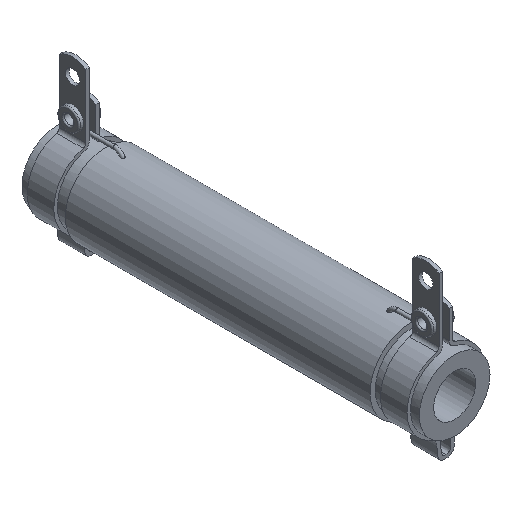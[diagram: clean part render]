
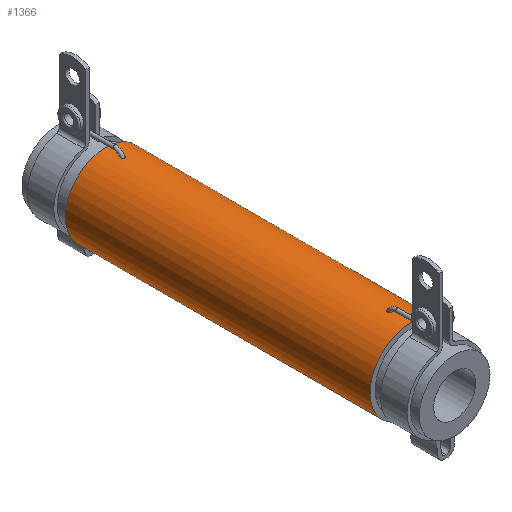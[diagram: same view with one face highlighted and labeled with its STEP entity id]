
A CAD part, isometric view. The second image highlights one B-rep face of the part: STEP entity #1366.
In plain terms, the highlighted cylindrical face has radius 9.175 mm (diameter 18.35 mm), a full revolution.
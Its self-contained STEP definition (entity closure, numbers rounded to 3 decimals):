
#147=B_SPLINE_CURVE_WITH_KNOTS($,3,(#2087,#2088,#2089,#2090,#2091,#2092,
#2093,#2094,#2095,#2096,#2097,#2098,#2099,#2100,#2101,#2102,#2103,#2104,
#2105,#2106,#2107,#2108,#2109,#2110,#2111,#2112,#2113,#2114,#2115,#2116,
#2117,#2118,#2119,#2120,#2121,#2122),.UNSPECIFIED.,.T.,.F.,(4,2,2,2,2,2,
2,2,2,2,2,2,2,2,2,2,2,4),(0.,0.015,0.03,0.046,
0.064,0.084,0.104,0.121,
0.134,0.146,0.159,0.176,
0.196,0.217,0.235,0.251,
0.261,0.271),.UNSPECIFIED.);
#148=B_SPLINE_CURVE_WITH_KNOTS($,3,(#2124,#2125,#2126,#2127,#2128,#2129,
#2130,#2131,#2132,#2133,#2134,#2135,#2136,#2137,#2138,#2139,#2140,#2141,
#2142,#2143,#2144,#2145,#2146,#2147,#2148,#2149,#2150,#2151,#2152,#2153,
#2154,#2155,#2156,#2157,#2158,#2159),.UNSPECIFIED.,.T.,.F.,(4,2,2,2,2,2,
2,2,2,2,2,2,2,2,2,2,2,4),(0.,0.015,0.03,0.046,
0.064,0.084,0.104,0.121,
0.134,0.146,0.159,0.176,
0.196,0.217,0.235,0.251,
0.261,0.271),.UNSPECIFIED.);
#177=FACE_BOUND($,#372,.T.);
#178=FACE_BOUND($,#373,.T.);
#179=FACE_BOUND($,#374,.T.);
#180=FACE_BOUND($,#375,.T.);
#251=CYLINDRICAL_SURFACE($,#1468,9.175);
#372=EDGE_LOOP($,(#918));
#373=EDGE_LOOP($,(#919));
#374=EDGE_LOOP($,(#920));
#375=EDGE_LOOP($,(#921));
#511=CIRCLE($,#1469,9.175);
#512=CIRCLE($,#1470,9.175);
#604=VERTEX_POINT($,#2086);
#605=VERTEX_POINT($,#2123);
#606=VERTEX_POINT($,#2160);
#607=VERTEX_POINT($,#2162);
#736=EDGE_CURVE($,#604,#604,#147,.T.);
#737=EDGE_CURVE($,#605,#605,#148,.T.);
#738=EDGE_CURVE($,#606,#606,#511,.T.);
#739=EDGE_CURVE($,#607,#607,#512,.T.);
#918=ORIENTED_EDGE($,*,*,#736,.T.);
#919=ORIENTED_EDGE($,*,*,#737,.T.);
#920=ORIENTED_EDGE($,*,*,#738,.T.);
#921=ORIENTED_EDGE($,*,*,#739,.F.);
#1366=ADVANCED_FACE($,(#177,#178,#179,#180),#251,.T.);
#1468=AXIS2_PLACEMENT_3D($,#2085,#1662,#1663);
#1469=AXIS2_PLACEMENT_3D($,#2161,#1664,#1665);
#1470=AXIS2_PLACEMENT_3D($,#2163,#1666,#1667);
#1662=DIRECTION('center_axis',(0.,1.,0.));
#1663=DIRECTION('ref_axis',(0.757,0.,0.653));
#1664=DIRECTION('center_axis',(0.,-1.,0.));
#1665=DIRECTION('ref_axis',(0.757,0.,0.653));
#1666=DIRECTION('center_axis',(0.,-1.,0.));
#1667=DIRECTION('ref_axis',(0.757,0.,0.653));
#2085=CARTESIAN_POINT('Origin',(21.645,56.577,19.693));
#2086=CARTESIAN_POINT('',(21.645,61.77,28.868));
#2087=CARTESIAN_POINT('Ctrl Pts',(21.645,61.77,28.868));
#2088=CARTESIAN_POINT('Ctrl Pts',(21.694,61.77,28.868));
#2089=CARTESIAN_POINT('Ctrl Pts',(21.742,61.761,28.867));
#2090=CARTESIAN_POINT('Ctrl Pts',(21.833,61.723,28.866));
#2091=CARTESIAN_POINT('Ctrl Pts',(21.875,61.695,28.865));
#2092=CARTESIAN_POINT('Ctrl Pts',(21.95,61.623,28.863));
#2093=CARTESIAN_POINT('Ctrl Pts',(21.981,61.578,28.862));
#2094=CARTESIAN_POINT('Ctrl Pts',(22.028,61.474,28.86));
#2095=CARTESIAN_POINT('Ctrl Pts',(22.042,61.414,28.859));
#2096=CARTESIAN_POINT('Ctrl Pts',(22.048,61.287,28.859));
#2097=CARTESIAN_POINT('Ctrl Pts',(22.038,61.219,28.859));
#2098=CARTESIAN_POINT('Ctrl Pts',(21.994,61.09,28.861));
#2099=CARTESIAN_POINT('Ctrl Pts',(21.96,61.029,28.862));
#2100=CARTESIAN_POINT('Ctrl Pts',(21.879,60.938,28.865));
#2101=CARTESIAN_POINT('Ctrl Pts',(21.837,60.904,28.866));
#2102=CARTESIAN_POINT('Ctrl Pts',(21.749,60.861,28.867));
#2103=CARTESIAN_POINT('Ctrl Pts',(21.707,60.849,28.868));
#2104=CARTESIAN_POINT('Ctrl Pts',(21.623,60.844,28.868));
#2105=CARTESIAN_POINT('Ctrl Pts',(21.583,60.85,28.868));
#2106=CARTESIAN_POINT('Ctrl Pts',(21.502,60.877,28.867));
#2107=CARTESIAN_POINT('Ctrl Pts',(21.463,60.899,28.866));
#2108=CARTESIAN_POINT('Ctrl Pts',(21.385,60.962,28.864));
#2109=CARTESIAN_POINT('Ctrl Pts',(21.349,61.006,28.863));
#2110=CARTESIAN_POINT('Ctrl Pts',(21.285,61.113,28.861));
#2111=CARTESIAN_POINT('Ctrl Pts',(21.262,61.179,28.86));
#2112=CARTESIAN_POINT('Ctrl Pts',(21.241,61.314,28.859));
#2113=CARTESIAN_POINT('Ctrl Pts',(21.243,61.383,28.859));
#2114=CARTESIAN_POINT('Ctrl Pts',(21.274,61.506,28.86));
#2115=CARTESIAN_POINT('Ctrl Pts',(21.299,61.561,28.861));
#2116=CARTESIAN_POINT('Ctrl Pts',(21.366,61.652,28.863));
#2117=CARTESIAN_POINT('Ctrl Pts',(21.406,61.689,28.865));
#2118=CARTESIAN_POINT('Ctrl Pts',(21.481,61.734,28.866));
#2119=CARTESIAN_POINT('Ctrl Pts',(21.513,61.747,28.867));
#2120=CARTESIAN_POINT('Ctrl Pts',(21.578,61.766,28.867));
#2121=CARTESIAN_POINT('Ctrl Pts',(21.611,61.77,28.868));
#2122=CARTESIAN_POINT('Ctrl Pts',(21.645,61.77,28.868));
#2123=CARTESIAN_POINT('',(21.645,121.384,28.868));
#2124=CARTESIAN_POINT('Ctrl Pts',(21.645,121.384,28.868));
#2125=CARTESIAN_POINT('Ctrl Pts',(21.597,121.384,28.868));
#2126=CARTESIAN_POINT('Ctrl Pts',(21.549,121.394,28.867));
#2127=CARTESIAN_POINT('Ctrl Pts',(21.457,121.431,28.866));
#2128=CARTESIAN_POINT('Ctrl Pts',(21.415,121.459,28.865));
#2129=CARTESIAN_POINT('Ctrl Pts',(21.34,121.531,28.863));
#2130=CARTESIAN_POINT('Ctrl Pts',(21.309,121.576,28.862));
#2131=CARTESIAN_POINT('Ctrl Pts',(21.262,121.681,28.86));
#2132=CARTESIAN_POINT('Ctrl Pts',(21.249,121.74,28.859));
#2133=CARTESIAN_POINT('Ctrl Pts',(21.243,121.868,28.859));
#2134=CARTESIAN_POINT('Ctrl Pts',(21.252,121.936,28.859));
#2135=CARTESIAN_POINT('Ctrl Pts',(21.296,122.064,28.861));
#2136=CARTESIAN_POINT('Ctrl Pts',(21.33,122.125,28.862));
#2137=CARTESIAN_POINT('Ctrl Pts',(21.411,122.217,28.865));
#2138=CARTESIAN_POINT('Ctrl Pts',(21.454,122.251,28.866));
#2139=CARTESIAN_POINT('Ctrl Pts',(21.541,122.294,28.867));
#2140=CARTESIAN_POINT('Ctrl Pts',(21.583,122.305,28.868));
#2141=CARTESIAN_POINT('Ctrl Pts',(21.667,122.31,28.868));
#2142=CARTESIAN_POINT('Ctrl Pts',(21.707,122.305,28.868));
#2143=CARTESIAN_POINT('Ctrl Pts',(21.788,122.278,28.867));
#2144=CARTESIAN_POINT('Ctrl Pts',(21.827,122.255,28.866));
#2145=CARTESIAN_POINT('Ctrl Pts',(21.905,122.192,28.864));
#2146=CARTESIAN_POINT('Ctrl Pts',(21.942,122.148,28.863));
#2147=CARTESIAN_POINT('Ctrl Pts',(22.005,122.041,28.861));
#2148=CARTESIAN_POINT('Ctrl Pts',(22.028,121.975,28.86));
#2149=CARTESIAN_POINT('Ctrl Pts',(22.049,121.841,28.859));
#2150=CARTESIAN_POINT('Ctrl Pts',(22.047,121.772,28.859));
#2151=CARTESIAN_POINT('Ctrl Pts',(22.017,121.648,28.86));
#2152=CARTESIAN_POINT('Ctrl Pts',(21.992,121.593,28.861));
#2153=CARTESIAN_POINT('Ctrl Pts',(21.924,121.502,28.863));
#2154=CARTESIAN_POINT('Ctrl Pts',(21.885,121.465,28.865));
#2155=CARTESIAN_POINT('Ctrl Pts',(21.809,121.42,28.866));
#2156=CARTESIAN_POINT('Ctrl Pts',(21.778,121.407,28.867));
#2157=CARTESIAN_POINT('Ctrl Pts',(21.713,121.389,28.867));
#2158=CARTESIAN_POINT('Ctrl Pts',(21.679,121.384,28.868));
#2159=CARTESIAN_POINT('Ctrl Pts',(21.645,121.384,28.868));
#2160=CARTESIAN_POINT('',(14.7,125.577,13.697));
#2161=CARTESIAN_POINT('Origin',(21.645,125.577,19.693));
#2162=CARTESIAN_POINT('',(14.7,56.577,13.697));
#2163=CARTESIAN_POINT('Origin',(21.645,56.577,19.693));
